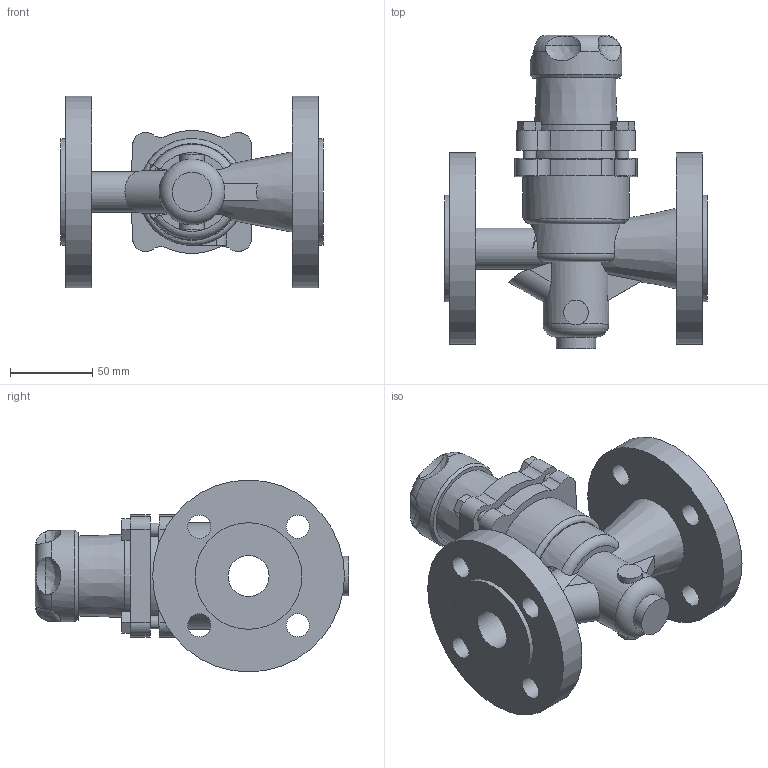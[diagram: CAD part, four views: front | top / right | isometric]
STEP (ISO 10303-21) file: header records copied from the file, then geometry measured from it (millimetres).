
FILE_DESCRIPTION(/* description */ (''),/* implementation_level */ '2;1');
FILE_NAME(/* name */ 'U:/AirCom-Produktdokumentation/Druckregler/RU/Zeichnungen/CAD-Aircom/3D/B-RUG-08x.step',/* time_stamp */ '2017-11-06T13:35:53+01:00',/* author */ (''),/* organization */ (''),/* preprocessor_version */ 'ST-DEVELOPER v16.13',/* originating_system */ 'Autodesk Translation Framework v6.5.0.72',/* authorisation */ '');
FILE_SCHEMA (('AUTOMOTIVE_DESIGN { 1 0 10303 214 3 1 1 }'));
Length unit declared in the file: millimetre
Products named in the file (2): BRV2S_DN25_PN25_WEB-0457393 (1); BRV2S_DN25_PN25_WEB-0457393
Assembly tree (1 placements, depth 2):
  BRV2S_DN25_PN25_WEB-0457393 (1)
    BRV2S_DN25_PN25_WEB-0457393
Bounding box: 160 x 191 x 117 mm (x, y, z)
Volume: 843893.4 mm3; surface area: 123078.1 mm2
Topology: 1 solids, 1 shells, 136 faces, 397 edges, 276 vertices
Faces by surface type: plane 65, cylinder 54, cone 6, torus 6, bspline 5
Full cylindrical faces by diameter (mm): 8 x4, 14 x8, 15 x2, 24 x1, 25 x1, 33.4 x1, 40 x1, 53 x1, 56 x1, 65 x3, 117 x2
Entity records: 5368 total; most frequent: CARTESIAN_POINT 1567, ORIENTED_EDGE 794, DIRECTION 783, EDGE_CURVE 397, AXIS2_PLACEMENT_3D 311, VERTEX_POINT 276, EDGE_LOOP 175, LINE 161
